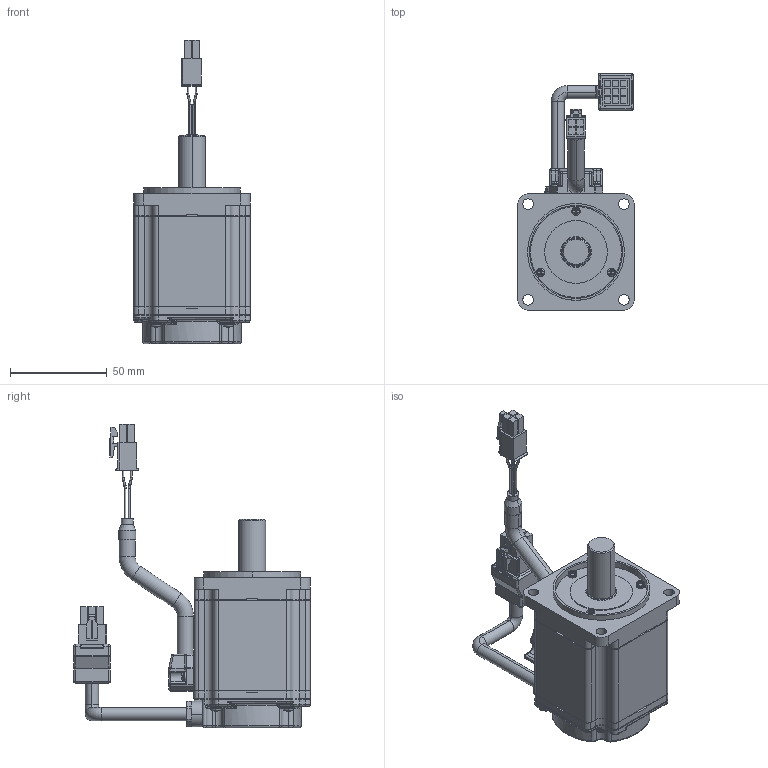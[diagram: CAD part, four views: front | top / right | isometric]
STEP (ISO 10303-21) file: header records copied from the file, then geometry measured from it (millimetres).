
FILE_DESCRIPTION((''),'2;1');
FILE_NAME('YM453349_2_B_ASM','2007-08-21T',('servo'),(''),'PRO/ENGINEER BY PARAMETRIC TECHNOLOGY CORPORATION, 2006510','PRO/ENGINEER BY PARAMETRIC TECHNOLOGY CORPORATION, 2006510','');
FILE_SCHEMA(('CONFIG_CONTROL_DESIGN'));
Length unit declared in the file: millimetre
Products named in the file (16): YM451591_1_A; YM422875_1_F; YM451325_1_A; YM541445_1_; YM452432_1_A; YM523825_2_B; YM451834_1_C; YM435982_1_B; YM435981_1_B; YM453438_1_B; YM541756_1; YM453149_1_B; YM541420_1_D; YM541420_3_D; NJ2_6X8; YM453349_2_B_ASM
Assembly tree (21 placements, depth 2):
  YM453349_2_B_ASM
    YM451591_1_A
    YM422875_1_F
    YM451325_1_A
    YM541445_1_
    YM452432_1_A
    YM523825_2_B
    YM451834_1_C
    YM435982_1_B
    YM435981_1_B
    YM453438_1_B
    YM541756_1
    YM453149_1_B
    YM541420_1_D  x3
    YM541420_3_D  x4
    NJ2_6X8  x2
Bounding box: 60.2 x 122.3 x 156.6 mm (x, y, z)
Volume: 240859.2 mm3; surface area: 79548 mm2
Topology: 21 solids, 21 shells, 1318 faces, 3237 edges, 2026 vertices
Faces by surface type: plane 535, cylinder 477, torus 146, sphere 63, bspline 61, cone 36
Entity records: 37242 total; most frequent: CARTESIAN_POINT 8988, DIRECTION 6154, ORIENTED_EDGE 5676, EDGE_CURVE 2838, AXIS2_PLACEMENT_3D 2355, VERTEX_POINT 1766, VECTOR 1444, LINE 1444
